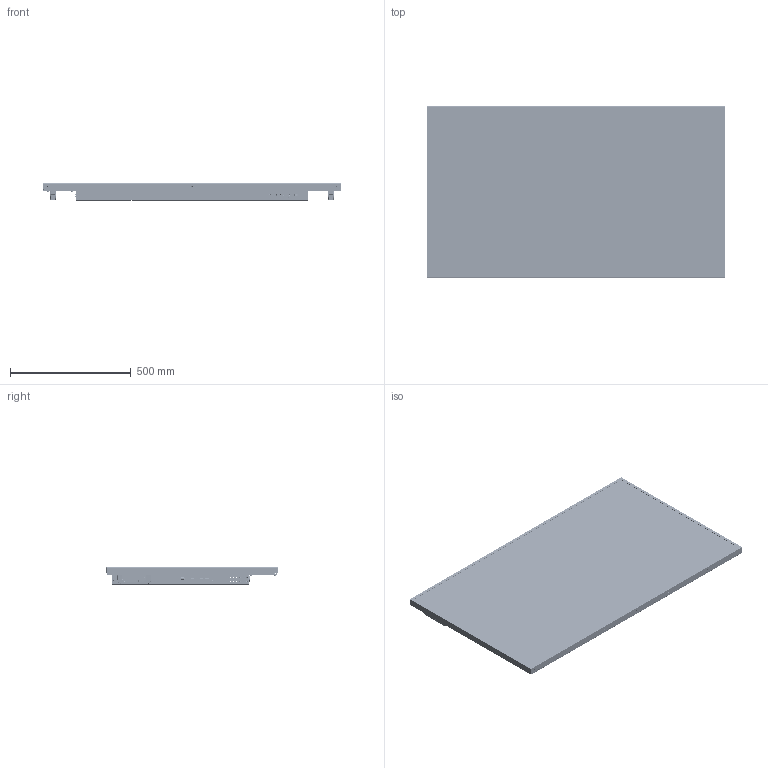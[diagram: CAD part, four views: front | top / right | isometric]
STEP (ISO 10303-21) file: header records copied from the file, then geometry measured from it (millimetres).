
FILE_DESCRIPTION((''),'2;1');
FILE_NAME('URP552_ASM','2025-07-10T08:48:50',('曾'),('制作'),'CREO PARAMETRIC BY PTC INC, 2018500','CREO PARAMETRIC BY PTC INC, 2018500','');
FILE_SCHEMA(('CONFIG_CONTROL_DESIGN','GEOMETRIC_VALIDATION_PROPERTIES_MIM'));
Products named in the file (68): DISPLAY-FRAME-TOP_9_7_1_6_1; DISPLAY-FRAME-BOTTOM_9_7_1_3_1; DISPLAY-FRAME-LEFT_9_7_1_3_1; DISPLAY-FRAME-RIGHT_9_7_1_3_1; DISPLAY-OUTSIDE-FRAME_ASM_8_ASM_ASM; AC-OUT_8_7_1_1_1; TS27_2_1_1_8_7_1_1_1; AN-IN_AC-1_2_8_7_1_1_1; AC-IN_ROCKER-SWITCH_3_8_7_1_1_1; 550_AC-IN_LB_ASM_5_ASM_8_ASM_7__ASM; AA_ST5461D11-6_1_1_1_1_8_7_1_1_; CF_GLASS_ST5461D11-6_3_1_1_1_8_; TFT_GLASS_ST5461D11-6_8_1_1_1_8; AA_CUT_ST5461D11-6_2_1_1_1_8_7_; CF_POL_SG18-1_1_8_7_1_1_1; TFT_POL_SG55D18_1_1_8_7_1_1_1; OPENCELL_ST5461D18-1_ASM_2_ASM__ASM; OPENCELL_ST5461D18-1_ASM_202305_ASM; OPENCELL_SG55D18-1_ASM_2_ASM_8__ASM; OPENCELL_SG55D18-1_20240119_ASM_ASM; LB-HEEL_9_7_1_1_1; LB-HEEL-LEFT_9_7_1_1_1; 550_BACK-COVER-C2_13_9_7_1_1_1; BACKCOVER-RIGHT_9_7_1_1_1; 550_BACK-COVER_ASM_17_ASM_8_ASM_ASM; SCREW-BOLT_M6-30-5_3_9_7_1_1_1; 550_HANGING-COLUMU-30_ASM_3_ASM_ASM; 55-BACKLIGHT_ASM_8_ASM_7_ASM_1__ASM; SIDECOVER-LEFT_9_7_1_1_1; PRT0010_9_7_1_1_1; PCBA_XL_ST5461D11-6_ND_2_1_1_2_; PRT0002_1_1_2_1_1_8_7_1_1_1; ASSY_PCBA_XL_ST5461D18XS_ASM_1__ASM; PCBA_XR_ST5461D11-6_ND_1_1_1_1_; ASSY_PCBA_XR_ST5461D18XS_ASM_1__ASM; HDMI-1_2_1_1_24_4_1_13_3_20_8_7; USB_TYPEC_2_1_1_24_4_1_13_3_2_2; DP_24_4_1_13_3_20_8_7_1_1_1; USB_B-3_3_1_2_11_24_3_1_13_3_20; IR_35_11_1-8437640_2_1252_24__3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
Assembly tree (76 placements, depth 9):
  URP552_ASM
    URP552-20250208_ASM_1_ASM_1_ASM
      00-URP-KINGMAN-55_ASM_9_ASM_7_A_ASM
        DISPLAY-OUTSIDE-FRAME_ASM_8_ASM_ASM
          DISPLAY-FRAME-TOP_9_7_1_6_1
          DISPLAY-FRAME-BOTTOM_9_7_1_3_1
          DISPLAY-FRAME-LEFT_9_7_1_3_1
          DISPLAY-FRAME-RIGHT_9_7_1_3_1
        55-BACKLIGHT_ASM_8_ASM_7_ASM_1__ASM
          550_AC-IN_LB_ASM_5_ASM_8_ASM_7__ASM
            AC-OUT_8_7_1_1_1
            TS27_2_1_1_8_7_1_1_1
            AN-IN_AC-1_2_8_7_1_1_1
            AC-IN_ROCKER-SWITCH_3_8_7_1_1_1
          OPENCELL_SG55D18-1_20240119_ASM_ASM
            OPENCELL_SG55D18-1_ASM_2_ASM_8__ASM
              OPENCELL_ST5461D18-1_ASM_202305_ASM
                OPENCELL_ST5461D18-1_ASM_2_ASM__ASM
                  AA_ST5461D11-6_1_1_1_1_8_7_1_1_
                  CF_GLASS_ST5461D11-6_3_1_1_1_8_
                  TFT_GLASS_ST5461D11-6_8_1_1_1_8
                  AA_CUT_ST5461D11-6_2_1_1_1_8_7_
                  CF_POL_SG18-1_1_8_7_1_1_1
                  TFT_POL_SG55D18_1_1_8_7_1_1_1
          LB-HEEL_9_7_1_1_1
          LB-HEEL-LEFT_9_7_1_1_1
          550_BACK-COVER_ASM_17_ASM_8_ASM_ASM
            550_BACK-COVER-C2_13_9_7_1_1_1
            BACKCOVER-RIGHT_9_7_1_1_1
          550_HANGING-COLUMU-30_ASM_3_ASM_ASM
            SCREW-BOLT_M6-30-5_3_9_7_1_1_1  x4
        SIDECOVER-LEFT_9_7_1_1_1
        PRT0010_9_7_1_1_1
        ASSY_PCBA_XL_ST5461D18XS_ASM_1__ASM
          PCBA_XL_ST5461D11-6_ND_2_1_1_2_
          PRT0002_1_1_2_1_1_8_7_1_1_1
        ASSY_PCBA_XR_ST5461D18XS_ASM_1__ASM
          PCBA_XR_ST5461D11-6_ND_1_1_1_1_
          PRT0002_1_1_2_1_1_8_7_1_1_1
        2738-MAIN-PCBA_ASM_8_ASM_ASM_8__ASM
          MAIN-PCBA_ASM_8_ASM_21_ASM_8_AS_ASM
            HDMI-1_2_1_1_24_4_1_13_3_20_8_7  x2
            USB_TYPEC_2_1_1_24_4_1_13_3_2_2
            DP_24_4_1_13_3_20_8_7_1_1_1  x3
            USB_B-3_3_1_2_11_24_3_1_13_3_20
            IR_35_11_1-8437640_2_1252_24__3
            S232EDU_MS8386_17-1015_1_3_1__3
            RJ45ZP5_PRT_1_1_1_1_1_1252333_3
            SPDIF_PLT_24_4_1_13_3_19_8_7_1_
            PRT0009_3_19_8_7_1_1_1
            USB-LS-3-0_24_2_1_1_2_50_1_8_7_
            RESET-KEY_8_7_1_1_1
        SIDECOVER-TOP_10_7_1_1_1
        SIDECOVE-RIGHT_9_7_1_1_1
        7-WXQ-ANJIAN_1__ASM_8_ASM_7_ASM_ASM
          ASM0002_ASM_12_ASM_8_ASM_7_ASM__ASM
            7J_ASM_3_ASM_8_ASM_7_ASM_1_ASM__ASM
              ASM0003_ASM_1_ASM_1_ASM_8_ASM_7_ASM
                WXQ-8KEY-IR-RB-A-1_0_ASM_1_ASM_
                MZ_1_1_8_7_1_1_1
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Bounding box: 1238.7 x 709.5 x 70.9 mm (x, y, z)
Volume: 2955103.9 mm3; surface area: 11176430.3 mm2
Topology: 48 solids, 64 shells, 14889 faces, 43705 edges, 29110 vertices
Faces by surface type: cylinder 8800, plane 5536, cone 278, bspline 96, extrusion 81, torus 72, sphere 26
Entity records: 514708 total; most frequent: CARTESIAN_POINT 76824, DIRECTION 76397, ORIENTED_EDGE 70322, EDGE_CURVE 35176, AXIS2_PLACEMENT_3D 29467, VERTEX_POINT 23498, EDGE_LOOP 19377, VECTOR 17463
